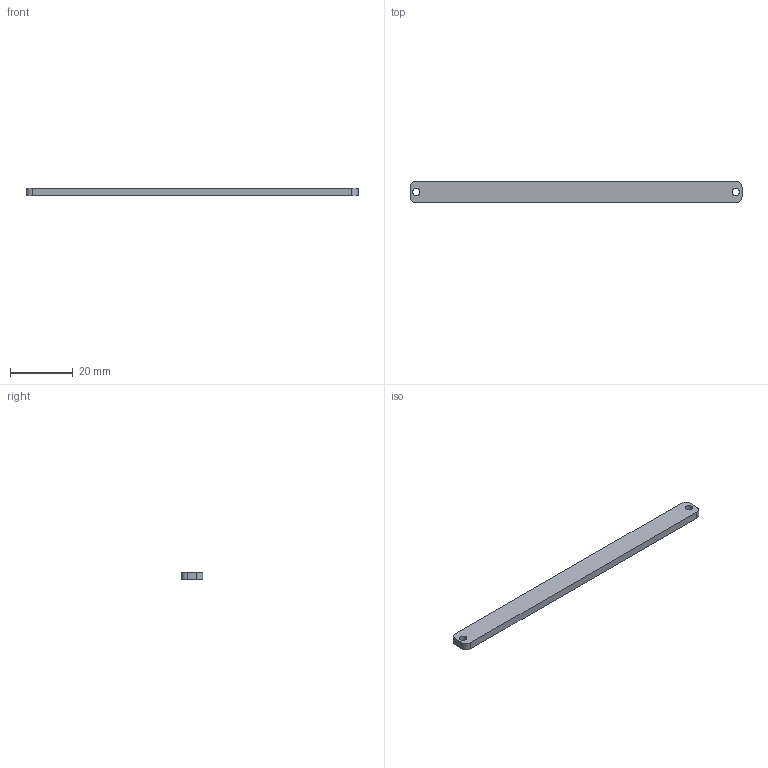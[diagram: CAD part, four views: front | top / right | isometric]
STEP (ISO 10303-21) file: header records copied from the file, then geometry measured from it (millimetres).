
FILE_DESCRIPTION(('FreeCAD Model'),'2;1');
FILE_NAME('Open CASCADE Shape Model','2026-10-20T15:18:15',('FreeCAD'),( 'FreeCAD'),'Open CASCADE STEP processor 7.8','FreeCAD','Unknown');
FILE_SCHEMA(('AUTOMOTIVE_DESIGN { 1 0 10303 214 1 1 1 1 }'));
Length unit declared in the file: millimetre
Products named in the file (1): Open CASCADE STEP translator 7.8 18
Bounding box: 106 x 7 x 2.4 mm (x, y, z)
Volume: 1752.6 mm3; surface area: 2029.4 mm2
Topology: 1 solids, 1 shells, 12 faces, 30 edges, 20 vertices
Faces by surface type: cylinder 6, plane 6
Full cylindrical faces by diameter (mm): 2.3 x2
Entity records: 384 total; most frequent: DIRECTION 68, CARTESIAN_POINT 63, ORIENTED_EDGE 60, EDGE_CURVE 30, AXIS2_PLACEMENT_3D 25, VERTEX_POINT 20, LINE 18, VECTOR 18
